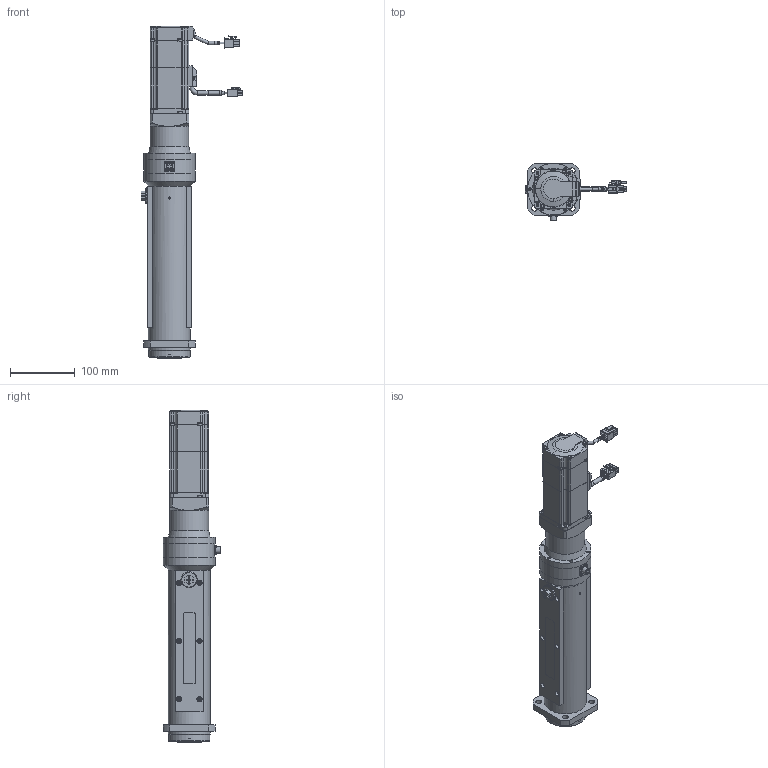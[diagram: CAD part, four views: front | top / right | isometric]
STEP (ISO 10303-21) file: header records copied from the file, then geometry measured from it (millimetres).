
FILE_DESCRIPTION( ('This file contains a STEP AP42 implementation' ,'as created by ZW3D STEP Interface translator.') ,'2;1' );
FILE_NAME( 'OACIS-DC-P001-P002-150-200-D_V20.01.stp' ,'25 519. 9 2 0', (''), ('ZWCAD Software Co.'), 'Version 1.0', 'ZW3D to STEP translator', '' );
FILE_SCHEMA(('AUTOMOTIVE_DESIGN { 1 0 10303 214 1 1 1 1 }'));
Length unit declared in the file: millimetre
Products named in the file (1): 0
Bounding box: 157.94 x 88.7 x 514.5 mm (x, y, z)
Volume: 1581371 mm3; surface area: 411138.2 mm2
Topology: 41 solids, 84 shells, 2622 faces, 6655 edges, 4321 vertices
Faces by surface type: plane 1186, cylinder 810, cone 361, torus 220, sphere 31, bspline 14
Full cylindrical faces by diameter (mm): 1 x19, 1.567 x4, 1.754 x2, 1.755 x2, 1.82 x4, 2 x5, 2.2 x4, 2.5 x8, 2.6 x15, 3.242 x8, 3.3 x29, 3.4 x4, 4.134 x9, 4.3 x12, 4.5 x21, 4.917 x1, 5 x3, 5.1 x2, 5.5 x12, 6 x18, 6.5 x4, 6.799 x3, 7.188 x1, 7.8 x1, 8 x18, 8.5 x1, 9 x5, 9.5 x4, 10.5 x1, 12 x1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
Entity records: 88415 total; most frequent: CARTESIAN_POINT 17268, DIRECTION 14186, ORIENTED_EDGE 13130, EDGE_CURVE 6565, AXIS2_PLACEMENT_3D 5437, VERTEX_POINT 4320, VECTOR 3312, LINE 3312
